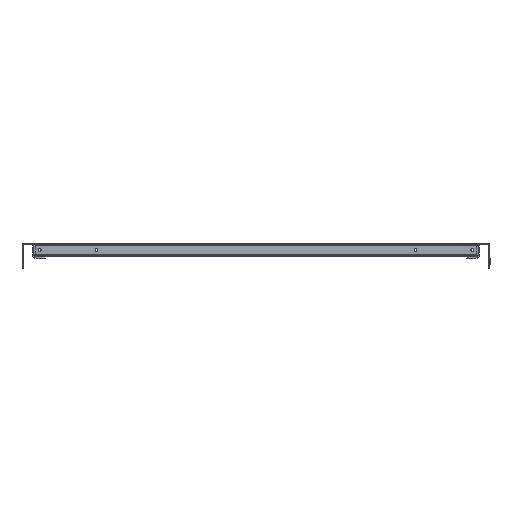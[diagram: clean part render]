
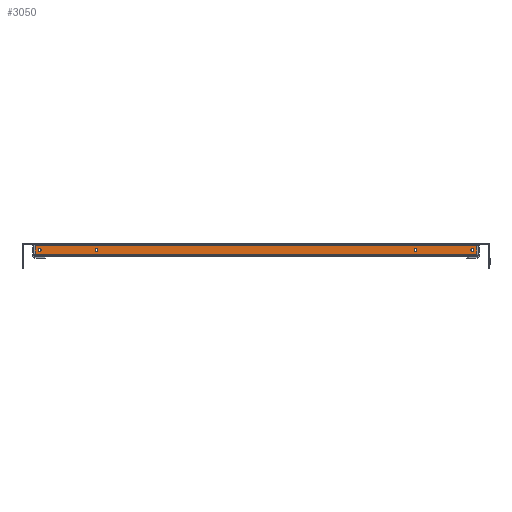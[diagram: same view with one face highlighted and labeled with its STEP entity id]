
A CAD part, front view. The second image highlights one B-rep face of the part: STEP entity #3050.
In plain terms, the highlighted planar face has unit normal (0, -1, 0).
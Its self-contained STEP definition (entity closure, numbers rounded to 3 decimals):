
#140 = DIRECTION ( 'NONE',  ( 0., 0., 1. ) ) ;
#161 = VECTOR ( 'NONE', #8289, 1000. ) ;
#211 = AXIS2_PLACEMENT_3D ( 'NONE', #7849, #1879, #6530 ) ;
#327 = DIRECTION ( 'NONE',  ( 0., 1., 0. ) ) ;
#341 = EDGE_CURVE ( 'NONE', #344, #7782, #3827, .T. ) ;
#344 = VERTEX_POINT ( 'NONE', #8338 ) ;
#352 = EDGE_CURVE ( 'NONE', #4273, #1747, #2687, .T. ) ;
#459 = DIRECTION ( 'NONE',  ( 0., 0., -1. ) ) ;
#748 = DIRECTION ( 'NONE',  ( 0., 0., -1. ) ) ;
#788 = VERTEX_POINT ( 'NONE', #7545 ) ;
#864 = DIRECTION ( 'NONE',  ( 1., 0., 0. ) ) ;
#953 = VERTEX_POINT ( 'NONE', #4672 ) ;
#959 = VECTOR ( 'NONE', #864, 1000. ) ;
#1228 = CIRCLE ( 'NONE', #2348, 2.1 ) ;
#1387 = FACE_BOUND ( 'NONE', #8368, .T. ) ;
#1488 = LINE ( 'NONE', #7339, #959 ) ;
#1747 = VERTEX_POINT ( 'NONE', #6528 ) ;
#1776 = VERTEX_POINT ( 'NONE', #4708 ) ;
#1790 = CIRCLE ( 'NONE', #6519, 2.1 ) ;
#1873 = ORIENTED_EDGE ( 'NONE', *, *, #4918, .T. ) ;
#1879 = DIRECTION ( 'NONE',  ( 0., 1., 0. ) ) ;
#1929 = AXIS2_PLACEMENT_3D ( 'NONE', #4159, #5993, #140 ) ;
#1985 = CARTESIAN_POINT ( 'NONE',  ( -322.859, -550., -14.5 ) ) ;
#2214 = CIRCLE ( 'NONE', #6787, 2.1 ) ;
#2242 = CARTESIAN_POINT ( 'NONE',  ( 322.859, -550., 0. ) ) ;
#2348 = AXIS2_PLACEMENT_3D ( 'NONE', #5749, #2505, #2412 ) ;
#2412 = DIRECTION ( 'NONE',  ( 0., 0., -1. ) ) ;
#2489 = DIRECTION ( 'NONE',  ( 0., 1., 0. ) ) ;
#2505 = DIRECTION ( 'NONE',  ( 0., 1., 0. ) ) ;
#2580 = FACE_BOUND ( 'NONE', #5887, .T. ) ;
#2687 = CIRCLE ( 'NONE', #7408, 2.1 ) ;
#2703 = VERTEX_POINT ( 'NONE', #7584 ) ;
#2877 = AXIS2_PLACEMENT_3D ( 'NONE', #4074, #6060, #748 ) ;
#2994 = DIRECTION ( 'NONE',  ( 0., 0., 1. ) ) ;
#3050 = ADVANCED_FACE ( 'NONE', ( #1387, #6653, #2580, #7932, #7971 ), #4052, .F. ) ;
#3186 = AXIS2_PLACEMENT_3D ( 'NONE', #4451, #2489, #7568 ) ;
#3344 = ORIENTED_EDGE ( 'NONE', *, *, #7193, .T. ) ;
#3453 = CIRCLE ( 'NONE', #1929, 2.1 ) ;
#3491 = LINE ( 'NONE', #6123, #4738 ) ;
#3497 = ORIENTED_EDGE ( 'NONE', *, *, #6802, .T. ) ;
#3604 = VECTOR ( 'NONE', #4890, 1000. ) ;
#3645 = ORIENTED_EDGE ( 'NONE', *, *, #341, .T. ) ;
#3685 = EDGE_LOOP ( 'NONE', ( #3344, #8483 ) ) ;
#3691 = CARTESIAN_POINT ( 'NONE',  ( 233.5, -550., -10.1 ) ) ;
#3708 = DIRECTION ( 'NONE',  ( 0., 1., 0. ) ) ;
#3816 = ORIENTED_EDGE ( 'NONE', *, *, #352, .T. ) ;
#3827 = LINE ( 'NONE', #4998, #161 ) ;
#3944 = CARTESIAN_POINT ( 'NONE',  ( 233.5, -550., -8. ) ) ;
#4034 = CIRCLE ( 'NONE', #6666, 2.1 ) ;
#4052 = PLANE ( 'NONE',  #211 ) ;
#4074 = CARTESIAN_POINT ( 'NONE',  ( 316.5, -550., -8. ) ) ;
#4116 = VERTEX_POINT ( 'NONE', #8583 ) ;
#4159 = CARTESIAN_POINT ( 'NONE',  ( -233.5, -550., -8. ) ) ;
#4233 = DIRECTION ( 'NONE',  ( 0., 0., 1. ) ) ;
#4236 = EDGE_LOOP ( 'NONE', ( #1873, #7600 ) ) ;
#4273 = VERTEX_POINT ( 'NONE', #7174 ) ;
#4375 = EDGE_CURVE ( 'NONE', #1747, #4273, #4970, .T. ) ;
#4420 = EDGE_CURVE ( 'NONE', #8293, #7391, #3453, .T. ) ;
#4451 = CARTESIAN_POINT ( 'NONE',  ( -316.5, -550., -8. ) ) ;
#4672 = CARTESIAN_POINT ( 'NONE',  ( 322.859, -550., -14.5 ) ) ;
#4708 = CARTESIAN_POINT ( 'NONE',  ( 322.859, -550., -1.5 ) ) ;
#4738 = VECTOR ( 'NONE', #6247, 1000. ) ;
#4866 = ORIENTED_EDGE ( 'NONE', *, *, #4375, .T. ) ;
#4890 = DIRECTION ( 'NONE',  ( 0., 0., -1. ) ) ;
#4911 = CARTESIAN_POINT ( 'NONE',  ( -233.5, -550., -10.1 ) ) ;
#4918 = EDGE_CURVE ( 'NONE', #2703, #4116, #7351, .T. ) ;
#4955 = CARTESIAN_POINT ( 'NONE',  ( -233.5, -550., -8. ) ) ;
#4970 = CIRCLE ( 'NONE', #2877, 2.1 ) ;
#4998 = CARTESIAN_POINT ( 'NONE',  ( -322.859, -550., -18. ) ) ;
#5076 = EDGE_CURVE ( 'NONE', #6718, #788, #1228, .T. ) ;
#5540 = LINE ( 'NONE', #2242, #3604 ) ;
#5728 = DIRECTION ( 'NONE',  ( 0., 1., 0. ) ) ;
#5749 = CARTESIAN_POINT ( 'NONE',  ( 233.5, -550., -8. ) ) ;
#5774 = ORIENTED_EDGE ( 'NONE', *, *, #8603, .F. ) ;
#5887 = EDGE_LOOP ( 'NONE', ( #3497, #7257 ) ) ;
#5993 = DIRECTION ( 'NONE',  ( 0., 1., 0. ) ) ;
#6060 = DIRECTION ( 'NONE',  ( 0., 1., 0. ) ) ;
#6123 = CARTESIAN_POINT ( 'NONE',  ( -322.859, -550., -14.5 ) ) ;
#6247 = DIRECTION ( 'NONE',  ( 1., 0., 0. ) ) ;
#6471 = CARTESIAN_POINT ( 'NONE',  ( 316.5, -550., -8. ) ) ;
#6519 = AXIS2_PLACEMENT_3D ( 'NONE', #4955, #327, #2994 ) ;
#6528 = CARTESIAN_POINT ( 'NONE',  ( 316.5, -550., -10.1 ) ) ;
#6530 = DIRECTION ( 'NONE',  ( 0., 0., 1. ) ) ;
#6653 = FACE_BOUND ( 'NONE', #3685, .T. ) ;
#6666 = AXIS2_PLACEMENT_3D ( 'NONE', #8319, #3708, #4233 ) ;
#6718 = VERTEX_POINT ( 'NONE', #3691 ) ;
#6787 = AXIS2_PLACEMENT_3D ( 'NONE', #3944, #7869, #8413 ) ;
#6798 = ORIENTED_EDGE ( 'NONE', *, *, #8346, .T. ) ;
#6802 = EDGE_CURVE ( 'NONE', #7391, #8293, #1790, .T. ) ;
#7174 = CARTESIAN_POINT ( 'NONE',  ( 316.5, -550., -5.9 ) ) ;
#7193 = EDGE_CURVE ( 'NONE', #788, #6718, #2214, .T. ) ;
#7257 = ORIENTED_EDGE ( 'NONE', *, *, #4420, .T. ) ;
#7337 = CARTESIAN_POINT ( 'NONE',  ( -233.5, -550., -5.9 ) ) ;
#7339 = CARTESIAN_POINT ( 'NONE',  ( 325., -550., -1.5 ) ) ;
#7351 = CIRCLE ( 'NONE', #3186, 2.1 ) ;
#7391 = VERTEX_POINT ( 'NONE', #7337 ) ;
#7408 = AXIS2_PLACEMENT_3D ( 'NONE', #6471, #5728, #459 ) ;
#7545 = CARTESIAN_POINT ( 'NONE',  ( 233.5, -550., -5.9 ) ) ;
#7557 = EDGE_CURVE ( 'NONE', #4116, #2703, #4034, .T. ) ;
#7568 = DIRECTION ( 'NONE',  ( 0., 0., 1. ) ) ;
#7578 = EDGE_CURVE ( 'NONE', #1776, #953, #5540, .T. ) ;
#7584 = CARTESIAN_POINT ( 'NONE',  ( -316.5, -550., -5.9 ) ) ;
#7600 = ORIENTED_EDGE ( 'NONE', *, *, #7557, .T. ) ;
#7782 = VERTEX_POINT ( 'NONE', #1985 ) ;
#7804 = EDGE_LOOP ( 'NONE', ( #6798, #7866, #5774, #3645 ) ) ;
#7849 = CARTESIAN_POINT ( 'NONE',  ( 325., -550., -18. ) ) ;
#7866 = ORIENTED_EDGE ( 'NONE', *, *, #7578, .F. ) ;
#7869 = DIRECTION ( 'NONE',  ( 0., 1., 0. ) ) ;
#7932 = FACE_BOUND ( 'NONE', #4236, .T. ) ;
#7971 = FACE_OUTER_BOUND ( 'NONE', #7804, .T. ) ;
#8289 = DIRECTION ( 'NONE',  ( 0., 0., -1. ) ) ;
#8293 = VERTEX_POINT ( 'NONE', #4911 ) ;
#8319 = CARTESIAN_POINT ( 'NONE',  ( -316.5, -550., -8. ) ) ;
#8338 = CARTESIAN_POINT ( 'NONE',  ( -322.859, -550., -1.5 ) ) ;
#8346 = EDGE_CURVE ( 'NONE', #7782, #953, #3491, .T. ) ;
#8368 = EDGE_LOOP ( 'NONE', ( #3816, #4866 ) ) ;
#8413 = DIRECTION ( 'NONE',  ( 0., 0., -1. ) ) ;
#8483 = ORIENTED_EDGE ( 'NONE', *, *, #5076, .T. ) ;
#8583 = CARTESIAN_POINT ( 'NONE',  ( -316.5, -550., -10.1 ) ) ;
#8603 = EDGE_CURVE ( 'NONE', #344, #1776, #1488, .T. ) ;
